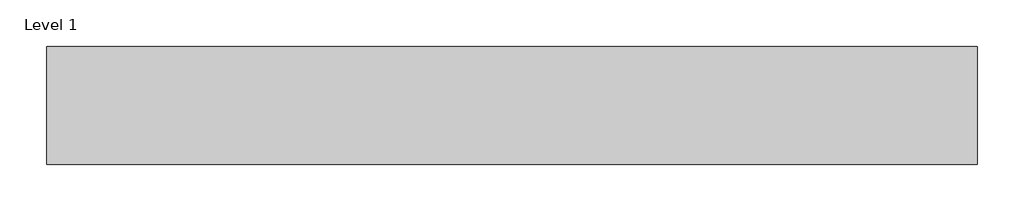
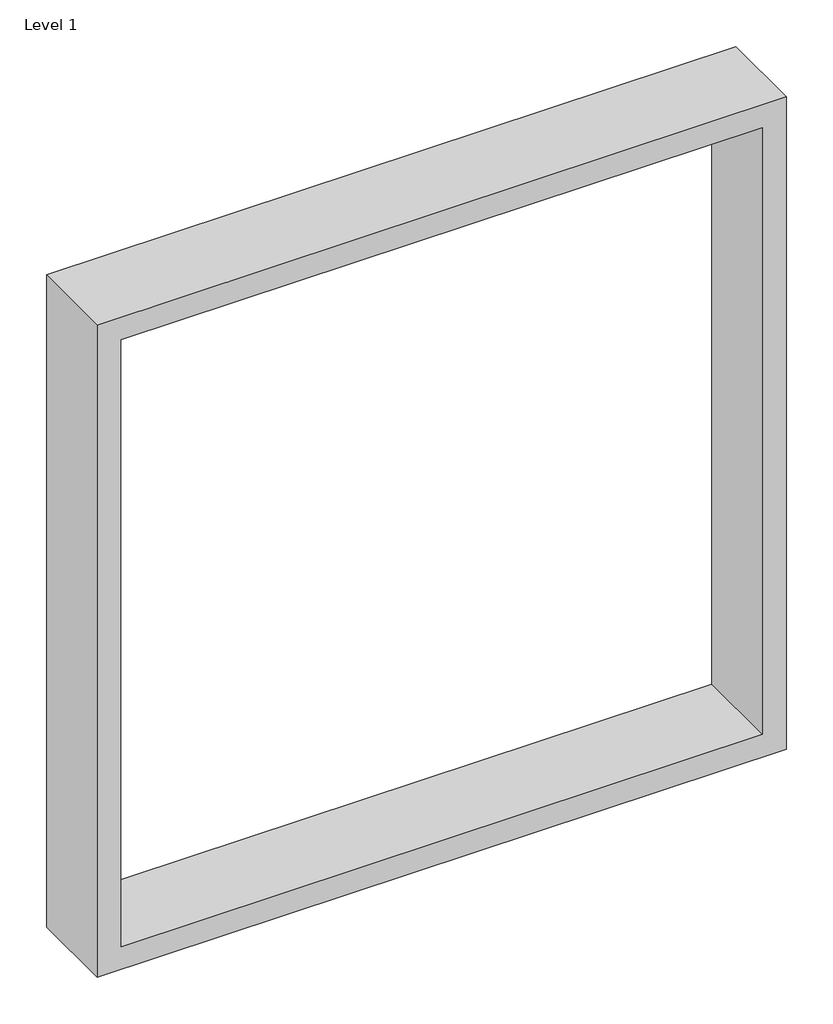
# One storey, incomplete: 1 damper.
"""IFC4 building model written with IfcOpenShell, lengths in millimetres."""

import ifcopenshell
import ifcopenshell.guid

model = None  # the IFC model being written
_history = None  # IfcOwnerHistory: only IFC2X3 demands one
_inside = {}  # id of a spatial element -> (the spatial element, [elements in it])
_under = {}  # id of a project, library or spatial element -> (it, [spatial elements below it])
_declared = {}  # id of a project -> (the project, [libraries it declares])
_typed = {}  # id of a type object -> (the type object, [elements of that type])
_made_of = {}  # id of a material, layer set ... -> (it, [elements and type objects made of it])


def new_model(schema):
    """Start an empty IFC model of exactly this schema.

    Asked for "IFC4X3", IfcOpenShell would pick the latest addendum, in which some entities
    have other attributes; the version numbers below select the first issue.
    IFC2X3 requires an IfcOwnerHistory on every rooted entity: one is made here for all.
    """
    global model, _history
    if schema == "IFC4X3":
        model = ifcopenshell.file(schema_version=(4, 3, 0, 0))
    else:
        model = ifcopenshell.file(schema=schema)
    _inside.clear()
    _under.clear()
    _declared.clear()
    _typed.clear()
    _made_of.clear()
    _history = None
    if model.schema == "IFC2X3":
        org = make("IfcOrganization", Name="unknown")
        user = make(
            "IfcPersonAndOrganization",
            ThePerson=make("IfcPerson", FamilyName="unknown"),
            TheOrganization=org,
        )
        app = make(
            "IfcApplication",
            ApplicationDeveloper=org,
            Version="unknown",
            ApplicationFullName="unknown",
            ApplicationIdentifier="unknown",
        )
        _history = make(
            "IfcOwnerHistory",
            OwningUser=user,
            OwningApplication=app,
            ChangeAction="ADDED",
            CreationDate=0,
        )
    return model


def make(cls, **values):
    """One entity of the class cls with the attributes given. An attribute that is None is left unset."""
    return model.create_entity(
        cls, **{name: value for name, value in values.items() if value is not None}
    )


def rooted(cls, **values):
    """An entity with a GlobalId (a new one), such as an element, a storey or a relation."""
    return make(cls, GlobalId=ifcopenshell.guid.new(), OwnerHistory=_history, **values)


def si_unit(unit_type, name, prefix=None):
    """IfcSIUnit, for example si_unit("LENGTHUNIT", "METRE", prefix="MILLI")."""
    return make("IfcSIUnit", UnitType=unit_type, Prefix=prefix, Name=name)


def assignment(units):
    """IfcUnitAssignment: the units of a project."""
    return None if units is None else make("IfcUnitAssignment", Units=units)


def point(xyz):
    """IfcCartesianPoint."""
    return None if xyz is None else make("IfcCartesianPoint", Coordinates=xyz)


def direction(xyz):
    """IfcDirection."""
    return None if xyz is None else make("IfcDirection", DirectionRatios=xyz)


def frame(location, z_axis=None, x_axis=None):
    """IfcAxis2Placement3D, a coordinate frame: its origin and axes. An axis left out is left unset."""
    return make(
        "IfcAxis2Placement3D",
        Location=point(location),
        Axis=direction(z_axis),
        RefDirection=direction(x_axis),
    )


def origin():
    """The frame at (0, 0, 0) with its axes left unset."""
    return frame((0.0, 0.0, 0.0))


def place(relative_to, where):
    """IfcLocalPlacement: puts the frame where relative to a parent placement (None: the world)."""
    return make(
        "IfcLocalPlacement", PlacementRelTo=relative_to, RelativePlacement=where
    )


def context(
    kind, dimensions, precision=None, world=None, true_north=None, identifier=None
):
    """IfcGeometricRepresentationContext, for example the 3D "Model" context."""
    return make(
        "IfcGeometricRepresentationContext",
        ContextIdentifier=identifier,
        ContextType=kind,
        CoordinateSpaceDimension=dimensions,
        Precision=precision,
        WorldCoordinateSystem=world,
        TrueNorth=true_north,
    )


def project(units=None, contexts=None):
    """IfcProject with its units and contexts."""
    return rooted(
        "IfcProject",
        Name="project",
        RepresentationContexts=contexts,
        UnitsInContext=assignment(units),
    )


def spatial(cls, under=None, at=None, **own):
    """A site, building, storey or space (cls), placed at a placement, below another one or the project."""
    s = rooted(cls, ObjectPlacement=at, **own)
    if under is not None:
        _under.setdefault(under.id(), (under, []))[1].append(s)
    return s


def polyline(points):
    """IfcPolyline through the points."""
    return make("IfcPolyline", Points=[point(p) for p in points])


def outline(outer, holes=None, kind="AREA"):
    """IfcArbitraryClosedProfileDef: a profile drawn as a closed curve; with holes, ...WithVoids."""
    if holes is None:
        return make("IfcArbitraryClosedProfileDef", ProfileType=kind, OuterCurve=outer)
    return make(
        "IfcArbitraryProfileDefWithVoids",
        ProfileType=kind,
        OuterCurve=outer,
        InnerCurves=holes,
    )


def extrude(swept, where, along, depth):
    """IfcExtrudedAreaSolid: the profile swept, set in the frame where, extruded along a direction by depth."""
    return make(
        "IfcExtrudedAreaSolid",
        SweptArea=swept,
        Position=where,
        ExtrudedDirection=direction(along),
        Depth=depth,
    )


def shape(context_of_items, identifier, shape_type, items):
    """IfcShapeRepresentation: the items that make up one representation, for example the "Body"."""
    return make(
        "IfcShapeRepresentation",
        ContextOfItems=context_of_items,
        RepresentationIdentifier=identifier,
        RepresentationType=shape_type,
        Items=items,
    )


def source(mapping_origin, context_of_items, identifier, shape_type, items):
    """IfcRepresentationMap: a shape defined once, which mapped items show again and again."""
    return make(
        "IfcRepresentationMap",
        MappingOrigin=mapping_origin,
        MappedRepresentation=shape(context_of_items, identifier, shape_type, items),
    )


def transform(
    local_origin,
    x_axis=None,
    y_axis=None,
    z_axis=None,
    scale=None,
    scale2=None,
    scale3=None,
    uniform=True,
):
    """IfcCartesianTransformationOperator3D, or its non-uniform kind. x_axis, y_axis, z_axis: its Axis1, 2, 3."""
    if uniform:
        return make(
            "IfcCartesianTransformationOperator3D",
            Axis1=direction(x_axis),
            Axis2=direction(y_axis),
            LocalOrigin=point(local_origin),
            Scale=scale,
            Axis3=direction(z_axis),
        )
    return make(
        "IfcCartesianTransformationOperator3DnonUniform",
        Axis1=direction(x_axis),
        Axis2=direction(y_axis),
        LocalOrigin=point(local_origin),
        Scale=scale,
        Axis3=direction(z_axis),
        Scale2=scale2,
        Scale3=scale3,
    )


def mapped(mapping_source, mapping_target):
    """IfcMappedItem: shows the shape of a source again, moved by a transform."""
    return make(
        "IfcMappedItem", MappingSource=mapping_source, MappingTarget=mapping_target
    )


def made_of(thing, what):
    """Note that an element or type object is made of a material, layer set ...; save() writes the relation."""
    if what is not None:
        _made_of.setdefault(what.id(), (what, []))[1].append(thing)
    return thing


def element(
    cls,
    number,
    at=None,
    inside=None,
    cuts=None,
    type_object=None,
    material=None,
    context=None,
    identifier="Body",
    shape_type=None,
    held_by="IfcProductDefinitionShape",
    body=None,
    shapes=None,
    **own,
):
    """One element of the class cls, such as IfcWall. Its Tag is "e" and its number.

    at: its placement. inside: the storey or other place that contains it. cuts: it is an
    opening in that element (IfcRelVoidsElement). A single representation is given by context,
    identifier, shape_type and body (its items); several are given by shapes. held_by: the class
    of the entity that holds the representations. save() writes the other relations.
    """
    e = rooted(cls, Tag="e%d" % number, ObjectPlacement=at, **own)
    if body is not None:
        shapes = [shape(context, identifier, shape_type, body)]
    if shapes is not None:
        e.Representation = make(held_by, Representations=shapes)
    if inside is not None:
        _inside.setdefault(inside.id(), (inside, []))[1].append(e)
    if cuts is not None:
        rooted(
            "IfcRelVoidsElement", RelatingBuildingElement=cuts, RelatedOpeningElement=e
        )
    if type_object is not None:
        _typed.setdefault(type_object.id(), (type_object, []))[1].append(e)
    return made_of(e, material)


def aggregate(whole, parts):
    """IfcRelAggregates: a whole, such as a stair, and the parts it consists of."""
    return rooted("IfcRelAggregates", RelatingObject=whole, RelatedObjects=parts)


def save(model, path):
    """Write the relations noted so far, then the file.

    IfcRelAggregates (storeys below a building ...), IfcRelContainedInSpatialStructure (elements
    in a storey), IfcRelDefinesByType, IfcRelAssociatesMaterial and IfcRelDeclares: one each for
    every whole, place, type object, material and project.
    """
    for whole, parts in _under.values():
        aggregate(whole, parts)
    for where, things in _inside.values():
        rooted(
            "IfcRelContainedInSpatialStructure",
            RelatedElements=things,
            RelatingStructure=where,
        )
    for kind, things in _typed.values():
        rooted("IfcRelDefinesByType", RelatedObjects=things, RelatingType=kind)
    for what, things in _made_of.values():
        rooted("IfcRelAssociatesMaterial", RelatedObjects=things, RelatingMaterial=what)
    for by, libraries in _declared.values():
        rooted("IfcRelDeclares", RelatingContext=by, RelatedDefinitions=libraries)
    model.write(path)


def dc_holyoake_lowleakagedamper_hbd_155_man_13_40de1610(model_context):
    return source(origin(), model_context, "Body", "SweptSolid", [
        extrude(outline(polyline([(1000.8182368, 1000.0), (1000.8182368, 0.0), (0.8182368, 0.0), (0.8182368, 1000.0), (1000.8182368, 1000.0)]), holes=[polyline([(35.8182368, 965.0), (35.8182368, 35.0), (965.8182368, 35.0), (965.8182368, 965.0), (35.8182368, 965.0)])]), frame((0.0, 0.0, 0.0), z_axis=(0.0, 1.0, 0.0), x_axis=(0.0, 0.0, 1.0)), (0.0, 0.0, 1.0), 127.0),
    ])


model = new_model("IFC4")

# Units and contexts
model_context = context("Model", 3, world=origin())
ifc_project = project(units=[si_unit("LENGTHUNIT", "METRE", prefix="MILLI")], contexts=[model_context])

# Site, building, storey
site = spatial("IfcSite", under=ifc_project)
building = spatial("IfcBuilding", under=site)
storey = spatial("IfcBuildingStorey", under=building, Name="Level 1", Elevation=0.0)

# Damper
placement = place(None, origin())
dc_holyoake_lowleakagedamper_hbd_155_man_13_shape = dc_holyoake_lowleakagedamper_hbd_155_man_13_40de1610(model_context)
element("IfcDamper", 1, ObjectType="DC_Holyoake_LowLeakageDamper_HBD-155-MAN_13 : Variable Width & Height", at=placement, inside=storey, context=model_context, shape_type="MappedRepresentation", body=[
    mapped(dc_holyoake_lowleakagedamper_hbd_155_man_13_shape, transform((-3398.0792956, 4665.6251228, 0.0), x_axis=(1.0, 0.0, 0.0), y_axis=(0.0, 1.0, 0.0), z_axis=(0.0, 0.0, 1.0))),
])

save(model, "model.ifc")
